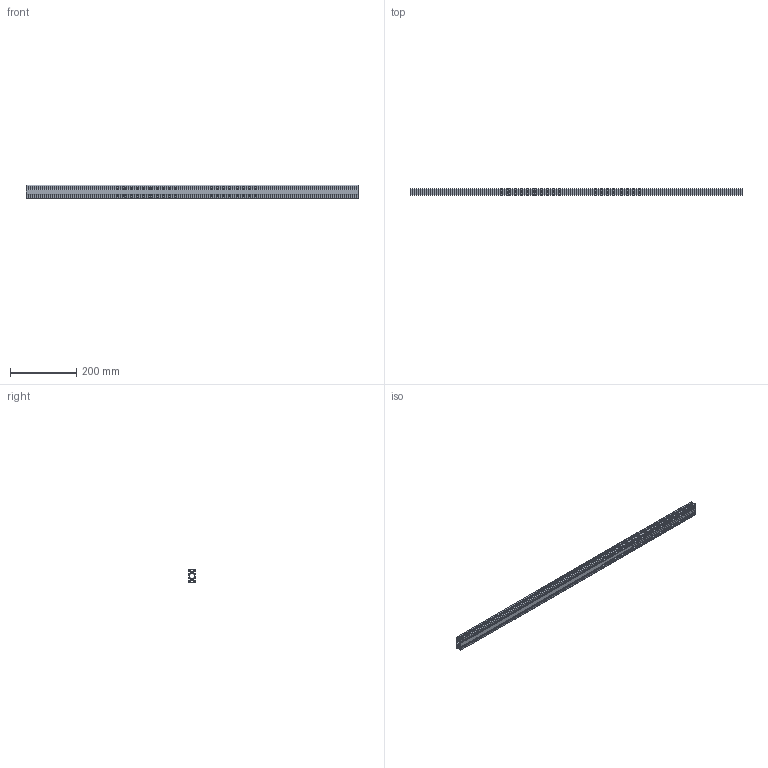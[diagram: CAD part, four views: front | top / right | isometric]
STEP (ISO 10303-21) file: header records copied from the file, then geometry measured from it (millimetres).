
FILE_DESCRIPTION (( 'STEP AP203' ), '1' );
FILE_NAME ('10409_PRO_5_40x20.STEP', '2016-03-02T14:27:43', ( '' ), ( '' ), 'SwSTEP 2.0', 'SolidWorks 2015', '' );
FILE_SCHEMA (( 'CONFIG_CONTROL_DESIGN' ));
Length unit declared in the file: millimetre
Products named in the file (1): 10409_PRO_5_40x20
Bounding box: 1000 x 20 x 40 mm (x, y, z)
Volume: 324181.5 mm3; surface area: 307584.4 mm2
Topology: 1 solids, 1 shells, 126 faces, 372 edges, 248 vertices
Faces by surface type: plane 72, cylinder 54
Entity records: 4313 total; most frequent: CARTESIAN_POINT 747, ORIENTED_EDGE 744, DIRECTION 734, EDGE_CURVE 372, LINE 264, VECTOR 264, VERTEX_POINT 248, AXIS2_PLACEMENT_3D 235
